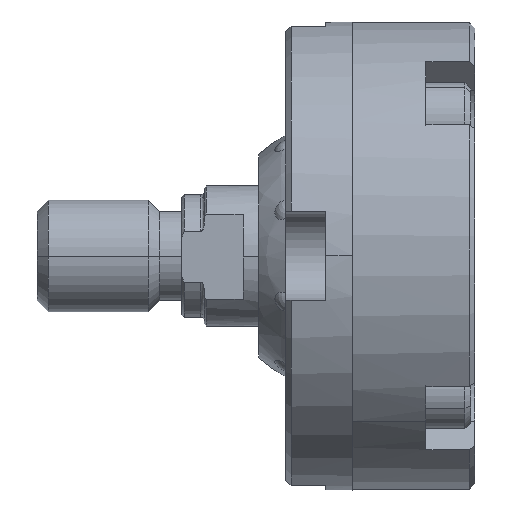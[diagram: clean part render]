
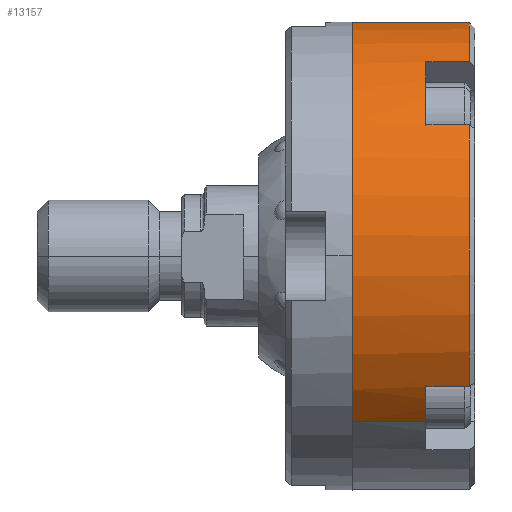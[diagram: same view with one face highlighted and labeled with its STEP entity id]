
A CAD part, top view. The second image highlights one B-rep face of the part: STEP entity #13157.
In plain terms, the highlighted cylindrical face has radius 21 mm (diameter 42 mm), a partial arc.
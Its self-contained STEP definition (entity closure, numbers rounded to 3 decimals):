
#218 = CARTESIAN_POINT ( 'NONE',  ( 0., -14.849, 14.849 ) ) ;
#381 = VERTEX_POINT ( 'NONE', #11631 ) ;
#389 = CIRCLE ( 'NONE', #5967, 21. ) ;
#461 = EDGE_CURVE ( 'NONE', #549, #1810, #17040, .T. ) ;
#549 = VERTEX_POINT ( 'NONE', #1531 ) ;
#554 = VERTEX_POINT ( 'NONE', #7391 ) ;
#583 = CARTESIAN_POINT ( 'NONE',  ( 6.6, 17.406, -11.749 ) ) ;
#714 = DIRECTION ( 'NONE',  ( 1., 0., 0. ) ) ;
#788 = CARTESIAN_POINT ( 'NONE',  ( 6.6, 0., 0. ) ) ;
#964 = CIRCLE ( 'NONE', #12806, 21. ) ;
#1231 = CARTESIAN_POINT ( 'NONE',  ( 0., 14.849, -14.849 ) ) ;
#1465 = DIRECTION ( 'NONE',  ( 0., 0.707, -0.707 ) ) ;
#1531 = CARTESIAN_POINT ( 'NONE',  ( 6.6, 14.849, -14.849 ) ) ;
#1785 = ORIENTED_EDGE ( 'NONE', *, *, #13079, .F. ) ;
#1810 = VERTEX_POINT ( 'NONE', #20002 ) ;
#2125 = CARTESIAN_POINT ( 'NONE',  ( 10.5, 0., 0. ) ) ;
#2649 = DIRECTION ( 'NONE',  ( 1., 0., 0. ) ) ;
#2651 = DIRECTION ( 'NONE',  ( -1., 0., 0. ) ) ;
#2782 = LINE ( 'NONE', #5386, #6386 ) ;
#2811 = ORIENTED_EDGE ( 'NONE', *, *, #10884, .F. ) ;
#2999 = DIRECTION ( 'NONE',  ( 1., 0., 0. ) ) ;
#3007 = DIRECTION ( 'NONE',  ( -1., 0., 0. ) ) ;
#3048 = CIRCLE ( 'NONE', #13931, 21. ) ;
#3296 = FACE_OUTER_BOUND ( 'NONE', #18438, .T. ) ;
#3377 = DIRECTION ( 'NONE',  ( -1., 0., 0. ) ) ;
#3599 = LINE ( 'NONE', #14551, #4928 ) ;
#3714 = EDGE_CURVE ( 'NONE', #13486, #14171, #964, .T. ) ;
#4013 = VECTOR ( 'NONE', #18318, 1000. ) ;
#4342 = DIRECTION ( 'NONE',  ( -1., 0., 0. ) ) ;
#4363 = DIRECTION ( 'NONE',  ( 0., -0.707, 0.707 ) ) ;
#4830 = EDGE_CURVE ( 'NONE', #9777, #13486, #3599, .T. ) ;
#4928 = VECTOR ( 'NONE', #714, 1000. ) ;
#4986 = AXIS2_PLACEMENT_3D ( 'NONE', #6383, #2999, #1465 ) ;
#5296 = VERTEX_POINT ( 'NONE', #16347 ) ;
#5375 = EDGE_CURVE ( 'NONE', #381, #7266, #11012, .T. ) ;
#5386 = CARTESIAN_POINT ( 'NONE',  ( 0., -14.849, 14.849 ) ) ;
#5421 = DIRECTION ( 'NONE',  ( -1., 0., 0. ) ) ;
#5620 = ORIENTED_EDGE ( 'NONE', *, *, #6238, .F. ) ;
#5646 = CARTESIAN_POINT ( 'NONE',  ( 10.5, 17.406, 11.749 ) ) ;
#5967 = AXIS2_PLACEMENT_3D ( 'NONE', #18720, #3007, #4363 ) ;
#6238 = EDGE_CURVE ( 'NONE', #554, #20079, #12847, .T. ) ;
#6297 = VECTOR ( 'NONE', #2651, 1000. ) ;
#6383 = CARTESIAN_POINT ( 'NONE',  ( 6.6, 0., 0. ) ) ;
#6386 = VECTOR ( 'NONE', #15000, 1000. ) ;
#7208 = EDGE_CURVE ( 'NONE', #5296, #381, #389, .T. ) ;
#7266 = VERTEX_POINT ( 'NONE', #13757 ) ;
#7391 = CARTESIAN_POINT ( 'NONE',  ( 6.6, -11.749, 17.406 ) ) ;
#7887 = LINE ( 'NONE', #15788, #20150 ) ;
#7985 = DIRECTION ( 'NONE',  ( -1., 0., 0. ) ) ;
#7991 = EDGE_CURVE ( 'NONE', #9777, #7266, #19838, .T. ) ;
#8029 = ORIENTED_EDGE ( 'NONE', *, *, #8419, .T. ) ;
#8419 = EDGE_CURVE ( 'NONE', #14171, #19642, #7887, .T. ) ;
#8507 = DIRECTION ( 'NONE',  ( 0., 0.707, -0.707 ) ) ;
#8597 = DIRECTION ( 'NONE',  ( 1., 0., 0. ) ) ;
#9385 = AXIS2_PLACEMENT_3D ( 'NONE', #12369, #13323, #15506 ) ;
#9646 = DIRECTION ( 'NONE',  ( 0., -0.707, 0.707 ) ) ;
#9715 = CIRCLE ( 'NONE', #9385, 21. ) ;
#9777 = VERTEX_POINT ( 'NONE', #13263 ) ;
#10884 = EDGE_CURVE ( 'NONE', #13908, #1810, #9715, .T. ) ;
#11012 = LINE ( 'NONE', #11214, #16191 ) ;
#11214 = CARTESIAN_POINT ( 'NONE',  ( 0., 11.749, 17.406 ) ) ;
#11313 = ORIENTED_EDGE ( 'NONE', *, *, #3714, .T. ) ;
#11383 = ORIENTED_EDGE ( 'NONE', *, *, #461, .T. ) ;
#11512 = DIRECTION ( 'NONE',  ( 0., -0.707, 0.707 ) ) ;
#11631 = CARTESIAN_POINT ( 'NONE',  ( 10.5, 11.749, 17.406 ) ) ;
#11816 = CYLINDRICAL_SURFACE ( 'NONE', #14594, 21. ) ;
#12142 = EDGE_CURVE ( 'NONE', #554, #5296, #19968, .T. ) ;
#12369 = CARTESIAN_POINT ( 'NONE',  ( 0., 0., 0. ) ) ;
#12806 = AXIS2_PLACEMENT_3D ( 'NONE', #2125, #3377, #9646 ) ;
#12847 = CIRCLE ( 'NONE', #13522, 21. ) ;
#13079 = EDGE_CURVE ( 'NONE', #549, #19642, #3048, .T. ) ;
#13157 = ADVANCED_FACE ( 'NONE', ( #3296 ), #11816, .T. ) ;
#13263 = CARTESIAN_POINT ( 'NONE',  ( 6.6, 17.406, 11.749 ) ) ;
#13323 = DIRECTION ( 'NONE',  ( -1., 0., 0. ) ) ;
#13486 = VERTEX_POINT ( 'NONE', #5646 ) ;
#13522 = AXIS2_PLACEMENT_3D ( 'NONE', #18469, #2649, #8507 ) ;
#13757 = CARTESIAN_POINT ( 'NONE',  ( 6.6, 11.749, 17.406 ) ) ;
#13774 = ORIENTED_EDGE ( 'NONE', *, *, #5375, .T. ) ;
#13908 = VERTEX_POINT ( 'NONE', #218 ) ;
#13931 = AXIS2_PLACEMENT_3D ( 'NONE', #788, #8597, #15918 ) ;
#14171 = VERTEX_POINT ( 'NONE', #16418 ) ;
#14551 = CARTESIAN_POINT ( 'NONE',  ( 0., 17.406, 11.749 ) ) ;
#14594 = AXIS2_PLACEMENT_3D ( 'NONE', #17459, #5421, #11512 ) ;
#14816 = ORIENTED_EDGE ( 'NONE', *, *, #12142, .T. ) ;
#15000 = DIRECTION ( 'NONE',  ( -1., 0., 0. ) ) ;
#15349 = CARTESIAN_POINT ( 'NONE',  ( 6.6, -14.849, 14.849 ) ) ;
#15506 = DIRECTION ( 'NONE',  ( 0., -0.707, 0.707 ) ) ;
#15788 = CARTESIAN_POINT ( 'NONE',  ( 0., 17.406, -11.749 ) ) ;
#15918 = DIRECTION ( 'NONE',  ( 0., 0.707, -0.707 ) ) ;
#15947 = ORIENTED_EDGE ( 'NONE', *, *, #7991, .F. ) ;
#16191 = VECTOR ( 'NONE', #4342, 1000. ) ;
#16209 = EDGE_CURVE ( 'NONE', #20079, #13908, #2782, .T. ) ;
#16222 = ORIENTED_EDGE ( 'NONE', *, *, #4830, .T. ) ;
#16347 = CARTESIAN_POINT ( 'NONE',  ( 10.5, -11.749, 17.406 ) ) ;
#16418 = CARTESIAN_POINT ( 'NONE',  ( 10.5, 17.406, -11.749 ) ) ;
#17040 = LINE ( 'NONE', #1231, #6297 ) ;
#17459 = CARTESIAN_POINT ( 'NONE',  ( 0., 0., 0. ) ) ;
#17881 = ORIENTED_EDGE ( 'NONE', *, *, #7208, .T. ) ;
#18111 = CARTESIAN_POINT ( 'NONE',  ( 0., -11.749, 17.406 ) ) ;
#18282 = ORIENTED_EDGE ( 'NONE', *, *, #16209, .F. ) ;
#18318 = DIRECTION ( 'NONE',  ( 1., 0., 0. ) ) ;
#18438 = EDGE_LOOP ( 'NONE', ( #1785, #11383, #2811, #18282, #5620, #14816, #17881, #13774, #15947, #16222, #11313, #8029 ) ) ;
#18469 = CARTESIAN_POINT ( 'NONE',  ( 6.6, 0., 0. ) ) ;
#18720 = CARTESIAN_POINT ( 'NONE',  ( 10.5, 0., 0. ) ) ;
#19642 = VERTEX_POINT ( 'NONE', #583 ) ;
#19838 = CIRCLE ( 'NONE', #4986, 21. ) ;
#19968 = LINE ( 'NONE', #18111, #4013 ) ;
#20002 = CARTESIAN_POINT ( 'NONE',  ( 0., 14.849, -14.849 ) ) ;
#20079 = VERTEX_POINT ( 'NONE', #15349 ) ;
#20150 = VECTOR ( 'NONE', #7985, 1000. ) ;
